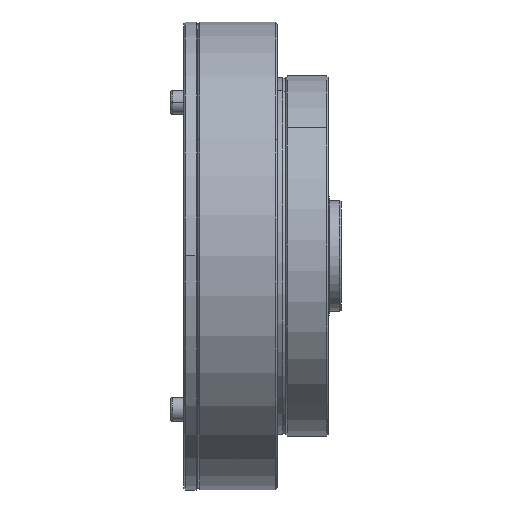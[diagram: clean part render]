
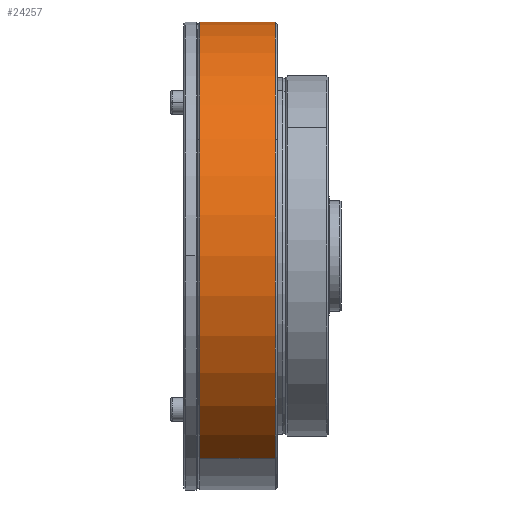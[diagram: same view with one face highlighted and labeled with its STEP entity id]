
A CAD part, top view. The second image highlights one B-rep face of the part: STEP entity #24257.
In plain terms, the highlighted cylindrical face has radius 55 mm (diameter 110 mm), a partial arc.
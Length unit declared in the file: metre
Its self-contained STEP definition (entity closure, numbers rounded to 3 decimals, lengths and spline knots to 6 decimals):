
#1127 = EDGE_CURVE ( 'NONE', #8439, #1471, #4625, .T. ) ;
#1471 = VERTEX_POINT ( 'NONE', #26848 ) ;
#1907 = DIRECTION ( 'NONE',  ( 0., 0.866, -0.5 ) ) ;
#2050 = DIRECTION ( 'NONE',  ( -1., 0., 0. ) ) ;
#2256 = LINE ( 'NONE', #18502, #22282 ) ;
#3761 = VERTEX_POINT ( 'NONE', #12943 ) ;
#3830 = ORIENTED_EDGE ( 'NONE', *, *, #8966, .T. ) ;
#4405 = DIRECTION ( 'NONE',  ( 1., 0., 0. ) ) ;
#4625 = CIRCLE ( 'NONE', #23213, 0.055 ) ;
#4917 = CARTESIAN_POINT ( 'NONE',  ( -0.0191, 0.047631, -0.0275 ) ) ;
#5586 = CARTESIAN_POINT ( 'NONE',  ( -0.0014, 0., 0. ) ) ;
#7399 = CARTESIAN_POINT ( 'NONE',  ( -0.0191, 0.0275, 0.047631 ) ) ;
#7533 = AXIS2_PLACEMENT_3D ( 'NONE', #5586, #12675, #19841 ) ;
#7688 = EDGE_CURVE ( 'NONE', #3761, #10393, #14630, .T. ) ;
#7742 = EDGE_CURVE ( 'NONE', #7971, #1471, #10993, .T. ) ;
#7971 = VERTEX_POINT ( 'NONE', #16778 ) ;
#8439 = VERTEX_POINT ( 'NONE', #7399 ) ;
#8966 = EDGE_CURVE ( 'NONE', #10393, #19731, #2256, .T. ) ;
#9168 = CARTESIAN_POINT ( 'NONE',  ( -0.0191, 0., 0. ) ) ;
#9439 = AXIS2_PLACEMENT_3D ( 'NONE', #9168, #4405, #20944 ) ;
#9508 = CIRCLE ( 'NONE', #7533, 0.055 ) ;
#10393 = VERTEX_POINT ( 'NONE', #22008 ) ;
#10844 = DIRECTION ( 'NONE',  ( 0., 0.866, -0.5 ) ) ;
#10993 = LINE ( 'NONE', #20317, #21468 ) ;
#12675 = DIRECTION ( 'NONE',  ( -1., 0., 0. ) ) ;
#12943 = CARTESIAN_POINT ( 'NONE',  ( -0.0014, 0.0275, 0.047631 ) ) ;
#14255 = CARTESIAN_POINT ( 'NONE',  ( -0.0191, 0., 0. ) ) ;
#14630 = CIRCLE ( 'NONE', #25890, 0.055 ) ;
#15890 = DIRECTION ( 'NONE',  ( -1., 0., 0. ) ) ;
#16240 = ORIENTED_EDGE ( 'NONE', *, *, #7742, .F. ) ;
#16778 = CARTESIAN_POINT ( 'NONE',  ( -0.0014, -0.047631, 0.0275 ) ) ;
#16949 = ORIENTED_EDGE ( 'NONE', *, *, #7688, .T. ) ;
#17318 = AXIS2_PLACEMENT_3D ( 'NONE', #20424, #2050, #1907 ) ;
#18026 = ORIENTED_EDGE ( 'NONE', *, *, #21685, .T. ) ;
#18502 = CARTESIAN_POINT ( 'NONE',  ( -0.024867, 0.047631, -0.0275 ) ) ;
#18947 = DIRECTION ( 'NONE',  ( -1., 0., 0. ) ) ;
#18996 = DIRECTION ( 'NONE',  ( 0., 0.866, -0.5 ) ) ;
#19731 = VERTEX_POINT ( 'NONE', #4917 ) ;
#19841 = DIRECTION ( 'NONE',  ( 0., 0.866, -0.5 ) ) ;
#20317 = CARTESIAN_POINT ( 'NONE',  ( -0.024867, -0.047631, 0.0275 ) ) ;
#20424 = CARTESIAN_POINT ( 'NONE',  ( -0.024867, 0., 0. ) ) ;
#20717 = CYLINDRICAL_SURFACE ( 'NONE', #17318, 0.055 ) ;
#20944 = DIRECTION ( 'NONE',  ( 0., 0.866, -0.5 ) ) ;
#21468 = VECTOR ( 'NONE', #15890, 1. ) ;
#21650 = CIRCLE ( 'NONE', #9439, 0.055 ) ;
#21685 = EDGE_CURVE ( 'NONE', #19731, #8439, #21650, .T. ) ;
#22008 = CARTESIAN_POINT ( 'NONE',  ( -0.0014, 0.047631, -0.0275 ) ) ;
#22282 = VECTOR ( 'NONE', #18947, 1. ) ;
#22877 = FACE_OUTER_BOUND ( 'NONE', #29392, .T. ) ;
#23014 = EDGE_CURVE ( 'NONE', #7971, #3761, #9508, .T. ) ;
#23213 = AXIS2_PLACEMENT_3D ( 'NONE', #14255, #25738, #18996 ) ;
#24257 = ADVANCED_FACE ( 'NONE', ( #22877 ), #20717, .T. ) ;
#24922 = DIRECTION ( 'NONE',  ( -1., 0., 0. ) ) ;
#25738 = DIRECTION ( 'NONE',  ( 1., 0., 0. ) ) ;
#25890 = AXIS2_PLACEMENT_3D ( 'NONE', #27053, #24922, #10844 ) ;
#26167 = ORIENTED_EDGE ( 'NONE', *, *, #23014, .T. ) ;
#26848 = CARTESIAN_POINT ( 'NONE',  ( -0.0191, -0.047631, 0.0275 ) ) ;
#27053 = CARTESIAN_POINT ( 'NONE',  ( -0.0014, 0., 0. ) ) ;
#28577 = ORIENTED_EDGE ( 'NONE', *, *, #1127, .T. ) ;
#29392 = EDGE_LOOP ( 'NONE', ( #16240, #26167, #16949, #3830, #18026, #28577 ) ) ;
